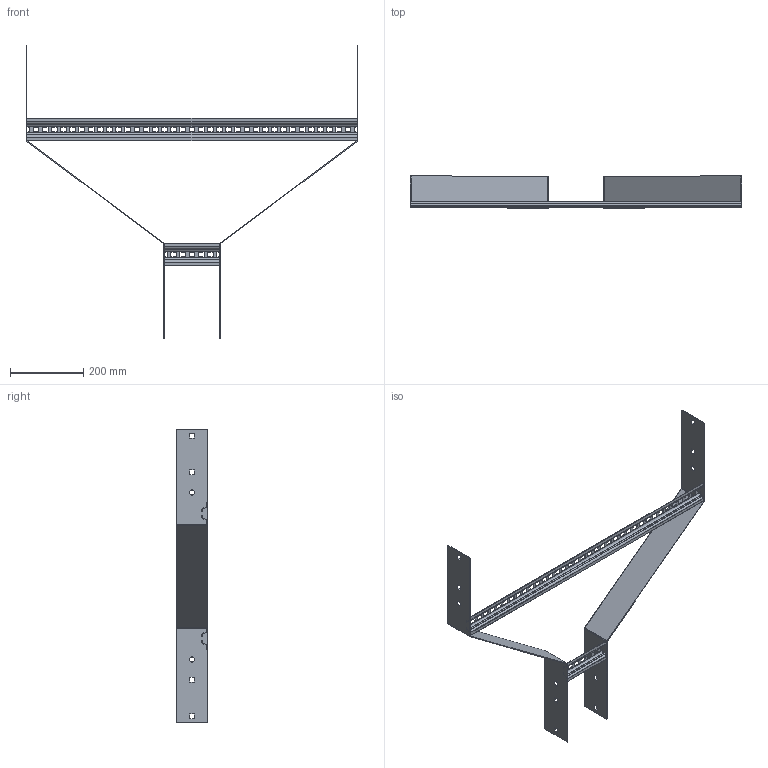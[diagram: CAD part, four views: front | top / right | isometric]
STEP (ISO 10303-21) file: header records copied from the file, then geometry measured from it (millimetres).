
FILE_DESCRIPTION (( 'STEP AP203' ), '1' );
FILE_NAME ('N2 SR900150.STEP', '2024-08-27T22:26:27', ( '' ), ( '' ), 'SwSTEP 2.0', 'SolidWorks 2023', '' );
FILE_SCHEMA (( 'CONFIG_CONTROL_DESIGN' ));
Length unit declared in the file: millimetre
Products named in the file (4): N2 SR900150; Ladder Rung_Ladder Rung -  900mm; N2 Reducer side plate_SR150x900; Ladder Rung_Ladder Rung -  150mm
Assembly tree (4 placements, depth 2):
  N2 SR900150
    N2 Reducer side plate_SR150x900  x2
    Ladder Rung_Ladder Rung -  150mm
    Ladder Rung_Ladder Rung -  900mm
Bounding box: 904 x 87 x 800 mm (x, y, z)
Volume: 452199.8 mm3; surface area: 497576.8 mm2
Topology: 4 solids, 4 shells, 336 faces, 888 edges, 560 vertices
Faces by surface type: plane 304, cylinder 32
Entity records: 9526 total; most frequent: CARTESIAN_POINT 1581, ORIENTED_EDGE 1568, DIRECTION 1434, EDGE_CURVE 784, VECTOR 736, LINE 736, VERTEX_POINT 496, EDGE_LOOP 386
